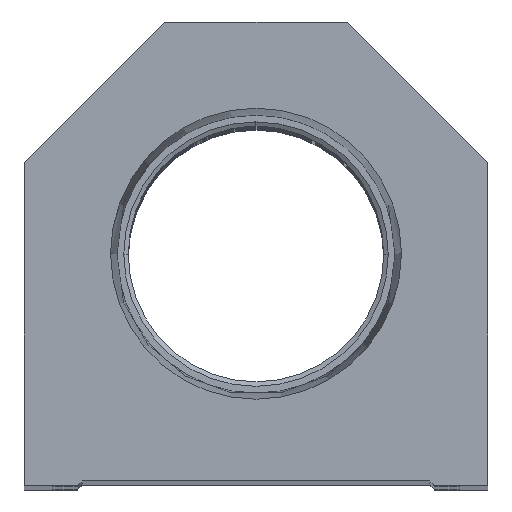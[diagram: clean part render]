
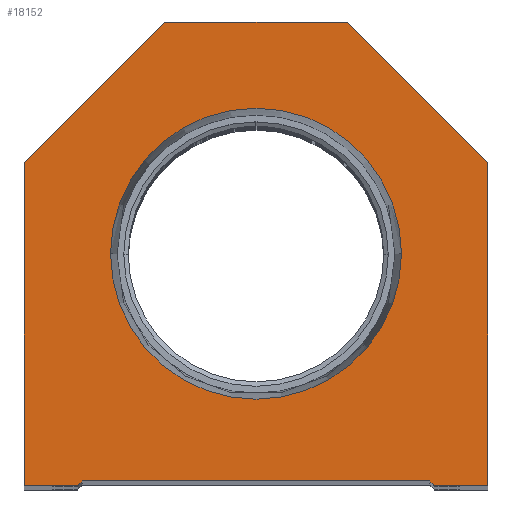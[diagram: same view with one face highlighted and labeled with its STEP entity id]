
A CAD part, top view. The second image highlights one B-rep face of the part: STEP entity #18152.
In plain terms, the highlighted planar face has unit normal (0, 0, 1).
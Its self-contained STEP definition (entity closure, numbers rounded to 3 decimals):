
#11 = EDGE_CURVE ( 'NONE', #3386, #465, #18460, .T. ) ;
#22 = LINE ( 'NONE', #9030, #3977 ) ;
#94 = CARTESIAN_POINT ( 'NONE',  ( 10., 50.8, 0. ) ) ;
#125 = CARTESIAN_POINT ( 'NONE',  ( 19.05, 0.5, 0. ) ) ;
#244 = VECTOR ( 'NONE', #16711, 1000. ) ;
#275 = CARTESIAN_POINT ( 'NONE',  ( -9.775, 9.775, 0. ) ) ;
#465 = VERTEX_POINT ( 'NONE', #10097 ) ;
#2053 = CARTESIAN_POINT ( 'NONE',  ( -19.55, 0., 0. ) ) ;
#2188 = VERTEX_POINT ( 'NONE', #2053 ) ;
#2667 = PLANE ( 'NONE',  #11742 ) ;
#2807 = DIRECTION ( 'NONE',  ( 0.707, -0.707, 0. ) ) ;
#2930 = ORIENTED_EDGE ( 'NONE', *, *, #12042, .T. ) ;
#3055 = VECTOR ( 'NONE', #11364, 1000. ) ;
#3190 = VERTEX_POINT ( 'NONE', #5965 ) ;
#3386 = VERTEX_POINT ( 'NONE', #5940 ) ;
#3393 = LINE ( 'NONE', #17858, #16085 ) ;
#3539 = DIRECTION ( 'NONE',  ( 0., 0., 1. ) ) ;
#3565 = DIRECTION ( 'NONE',  ( 0., 0., 1. ) ) ;
#3724 = AXIS2_PLACEMENT_3D ( 'NONE', #19519, #3539, #6713 ) ;
#3736 = DIRECTION ( 'NONE',  ( 0., -1., 0. ) ) ;
#3913 = ORIENTED_EDGE ( 'NONE', *, *, #7617, .T. ) ;
#3975 = CIRCLE ( 'NONE', #5477, 15.947 ) ;
#3977 = VECTOR ( 'NONE', #19976, 1000. ) ;
#4243 = CARTESIAN_POINT ( 'NONE',  ( -25.4, 35.4, 0. ) ) ;
#4250 = CARTESIAN_POINT ( 'NONE',  ( -19.05, 0.5, 0. ) ) ;
#4386 = CARTESIAN_POINT ( 'NONE',  ( -25.4, 0., 0. ) ) ;
#4561 = CARTESIAN_POINT ( 'NONE',  ( 0., 0., 0. ) ) ;
#4689 = ORIENTED_EDGE ( 'NONE', *, *, #14188, .T. ) ;
#4858 = ORIENTED_EDGE ( 'NONE', *, *, #16467, .F. ) ;
#5039 = ORIENTED_EDGE ( 'NONE', *, *, #12211, .T. ) ;
#5383 = VECTOR ( 'NONE', #14948, 1000. ) ;
#5477 = AXIS2_PLACEMENT_3D ( 'NONE', #9051, #3565, #12661 ) ;
#5609 = ORIENTED_EDGE ( 'NONE', *, *, #19294, .F. ) ;
#5692 = ORIENTED_EDGE ( 'NONE', *, *, #14284, .T. ) ;
#5875 = DIRECTION ( 'NONE',  ( 1., 0., 0. ) ) ;
#5936 = VERTEX_POINT ( 'NONE', #16041 ) ;
#5940 = CARTESIAN_POINT ( 'NONE',  ( -10., 50.8, 0. ) ) ;
#5965 = CARTESIAN_POINT ( 'NONE',  ( 19.55, 0., 0. ) ) ;
#5968 = LINE ( 'NONE', #22316, #19964 ) ;
#6713 = DIRECTION ( 'NONE',  ( 1., 0., 0. ) ) ;
#6909 = VECTOR ( 'NONE', #5875, 1000. ) ;
#6953 = VECTOR ( 'NONE', #9038, 1000. ) ;
#7509 = CARTESIAN_POINT ( 'NONE',  ( -19.05, 0., 0. ) ) ;
#7617 = EDGE_CURVE ( 'NONE', #465, #16398, #3393, .T. ) ;
#7798 = EDGE_CURVE ( 'NONE', #5936, #21182, #20335, .T. ) ;
#7825 = VERTEX_POINT ( 'NONE', #12983 ) ;
#8629 = CARTESIAN_POINT ( 'NONE',  ( 25.4, 35.4, 0. ) ) ;
#9030 = CARTESIAN_POINT ( 'NONE',  ( 19.05, 0., 0. ) ) ;
#9038 = DIRECTION ( 'NONE',  ( 0.707, 0.707, 0. ) ) ;
#9051 = CARTESIAN_POINT ( 'NONE',  ( 0., 25.4, 0. ) ) ;
#9245 = VERTEX_POINT ( 'NONE', #14870 ) ;
#9605 = CARTESIAN_POINT ( 'NONE',  ( 10., 50.8, 0. ) ) ;
#9921 = ORIENTED_EDGE ( 'NONE', *, *, #14548, .T. ) ;
#10097 = CARTESIAN_POINT ( 'NONE',  ( -25.4, 35.4, 0. ) ) ;
#10399 = ORIENTED_EDGE ( 'NONE', *, *, #11, .T. ) ;
#10488 = LINE ( 'NONE', #8629, #17412 ) ;
#10693 = VECTOR ( 'NONE', #10760, 1000. ) ;
#10760 = DIRECTION ( 'NONE',  ( 0., 1., 0. ) ) ;
#11356 = LINE ( 'NONE', #9605, #244 ) ;
#11364 = DIRECTION ( 'NONE',  ( 1., 0., 0. ) ) ;
#11462 = EDGE_LOOP ( 'NONE', ( #4858, #5609 ) ) ;
#11566 = EDGE_LOOP ( 'NONE', ( #14244, #4689, #14359, #2930, #16938, #5039, #9921, #5692, #10399, #3913 ) ) ;
#11666 = FACE_OUTER_BOUND ( 'NONE', #11566, .T. ) ;
#11742 = AXIS2_PLACEMENT_3D ( 'NONE', #4561, #18785, #18562 ) ;
#11918 = EDGE_CURVE ( 'NONE', #3190, #12998, #22, .T. ) ;
#12042 = EDGE_CURVE ( 'NONE', #21182, #3190, #5968, .T. ) ;
#12211 = EDGE_CURVE ( 'NONE', #12998, #17319, #19730, .T. ) ;
#12661 = DIRECTION ( 'NONE',  ( 1., 0., 0. ) ) ;
#12983 = CARTESIAN_POINT ( 'NONE',  ( -15.947, 25.4, 0. ) ) ;
#12998 = VERTEX_POINT ( 'NONE', #14569 ) ;
#13404 = VERTEX_POINT ( 'NONE', #94 ) ;
#13746 = DIRECTION ( 'NONE',  ( -0.707, 0.707, 0. ) ) ;
#14188 = EDGE_CURVE ( 'NONE', #2188, #5936, #19314, .T. ) ;
#14244 = ORIENTED_EDGE ( 'NONE', *, *, #17942, .T. ) ;
#14284 = EDGE_CURVE ( 'NONE', #13404, #3386, #11356, .T. ) ;
#14359 = ORIENTED_EDGE ( 'NONE', *, *, #7798, .T. ) ;
#14548 = EDGE_CURVE ( 'NONE', #17319, #13404, #10488, .T. ) ;
#14569 = CARTESIAN_POINT ( 'NONE',  ( 25.4, 0., 0. ) ) ;
#14870 = CARTESIAN_POINT ( 'NONE',  ( 15.947, 25.4, 0. ) ) ;
#14948 = DIRECTION ( 'NONE',  ( -0.707, -0.707, 0. ) ) ;
#15167 = FACE_BOUND ( 'NONE', #11462, .T. ) ;
#15890 = CARTESIAN_POINT ( 'NONE',  ( 25.4, 35.4, 0. ) ) ;
#16041 = CARTESIAN_POINT ( 'NONE',  ( -19.05, 0.5, 0. ) ) ;
#16085 = VECTOR ( 'NONE', #3736, 1000. ) ;
#16398 = VERTEX_POINT ( 'NONE', #4386 ) ;
#16467 = EDGE_CURVE ( 'NONE', #9245, #7825, #19741, .T. ) ;
#16711 = DIRECTION ( 'NONE',  ( -1., 0., 0. ) ) ;
#16938 = ORIENTED_EDGE ( 'NONE', *, *, #11918, .T. ) ;
#17319 = VERTEX_POINT ( 'NONE', #15890 ) ;
#17412 = VECTOR ( 'NONE', #13746, 1000. ) ;
#17858 = CARTESIAN_POINT ( 'NONE',  ( -25.4, 0., 0. ) ) ;
#17942 = EDGE_CURVE ( 'NONE', #16398, #2188, #21527, .T. ) ;
#18152 = ADVANCED_FACE ( 'NONE', ( #15167, #11666 ), #2667, .T. ) ;
#18460 = LINE ( 'NONE', #4243, #5383 ) ;
#18562 = DIRECTION ( 'NONE',  ( 1., 0., 0. ) ) ;
#18785 = DIRECTION ( 'NONE',  ( 0., 0., 1. ) ) ;
#19294 = EDGE_CURVE ( 'NONE', #7825, #9245, #3975, .T. ) ;
#19314 = LINE ( 'NONE', #275, #6953 ) ;
#19519 = CARTESIAN_POINT ( 'NONE',  ( 0., 25.4, 0. ) ) ;
#19730 = LINE ( 'NONE', #21492, #10693 ) ;
#19741 = CIRCLE ( 'NONE', #3724, 15.947 ) ;
#19964 = VECTOR ( 'NONE', #2807, 1000. ) ;
#19976 = DIRECTION ( 'NONE',  ( 1., 0., 0. ) ) ;
#20335 = LINE ( 'NONE', #4250, #3055 ) ;
#21182 = VERTEX_POINT ( 'NONE', #125 ) ;
#21492 = CARTESIAN_POINT ( 'NONE',  ( 25.4, 0., 0. ) ) ;
#21527 = LINE ( 'NONE', #7509, #6909 ) ;
#22316 = CARTESIAN_POINT ( 'NONE',  ( 9.775, 9.775, 0. ) ) ;
